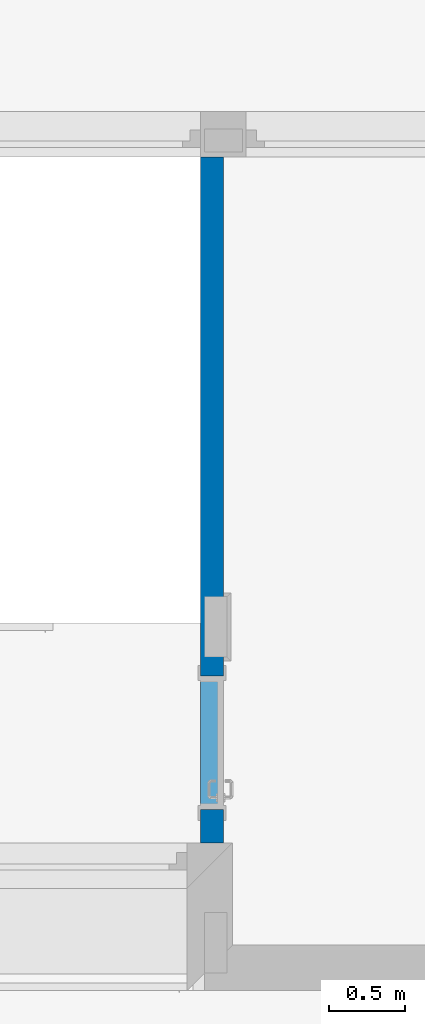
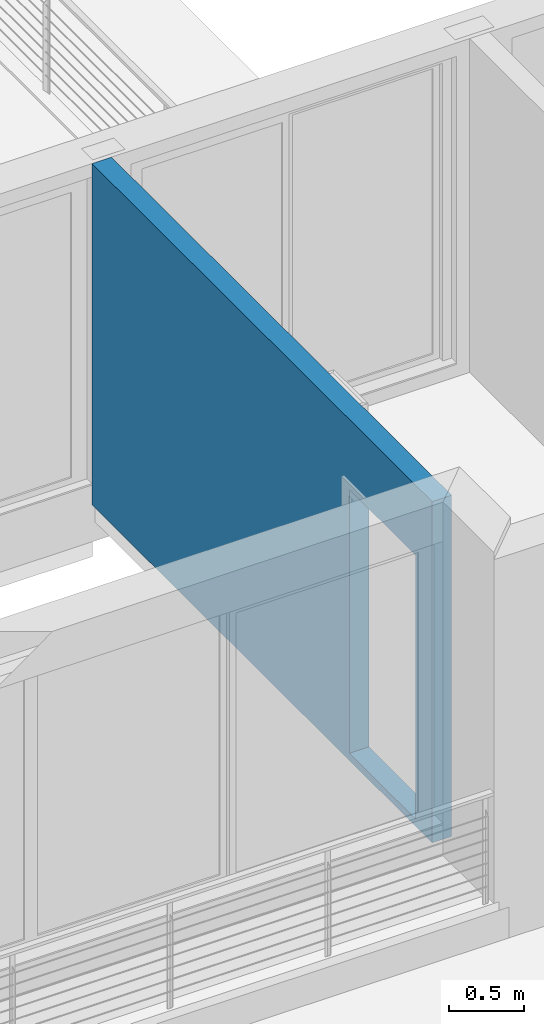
# One storey, part 9 of 24: 1 wall, 1 opening.
"""IFC2X3 building model written with IfcOpenShell, lengths in millimetres."""

import ifcopenshell
import ifcopenshell.guid

model = None  # the IFC model being written
_history = None  # IfcOwnerHistory: only IFC2X3 demands one
_inside = {}  # id of a spatial element -> (the spatial element, [elements in it])
_under = {}  # id of a project, library or spatial element -> (it, [spatial elements below it])
_declared = {}  # id of a project -> (the project, [libraries it declares])
_typed = {}  # id of a type object -> (the type object, [elements of that type])
_made_of = {}  # id of a material, layer set ... -> (it, [elements and type objects made of it])


def new_model(schema):
    """Start an empty IFC model of exactly this schema.

    Asked for "IFC4X3", IfcOpenShell would pick the latest addendum, in which some entities
    have other attributes; the version numbers below select the first issue.
    IFC2X3 requires an IfcOwnerHistory on every rooted entity: one is made here for all.
    """
    global model, _history
    if schema == "IFC4X3":
        model = ifcopenshell.file(schema_version=(4, 3, 0, 0))
    else:
        model = ifcopenshell.file(schema=schema)
    _inside.clear()
    _under.clear()
    _declared.clear()
    _typed.clear()
    _made_of.clear()
    _history = None
    if model.schema == "IFC2X3":
        org = make("IfcOrganization", Name="unknown")
        user = make(
            "IfcPersonAndOrganization",
            ThePerson=make("IfcPerson", FamilyName="unknown"),
            TheOrganization=org,
        )
        app = make(
            "IfcApplication",
            ApplicationDeveloper=org,
            Version="unknown",
            ApplicationFullName="unknown",
            ApplicationIdentifier="unknown",
        )
        _history = make(
            "IfcOwnerHistory",
            OwningUser=user,
            OwningApplication=app,
            ChangeAction="ADDED",
            CreationDate=0,
        )
    return model


def make(cls, **values):
    """One entity of the class cls with the attributes given. An attribute that is None is left unset."""
    return model.create_entity(
        cls, **{name: value for name, value in values.items() if value is not None}
    )


def entity(cls, *values):
    """Any entity or typed value of the class cls, its attributes in the order of the schema. None: left unset."""
    e = model.create_entity(cls)
    for i, value in enumerate(values):
        if value is not None:
            e[i] = value
    return e


def rooted(cls, **values):
    """An entity with a GlobalId (a new one), such as an element, a storey or a relation."""
    return make(cls, GlobalId=ifcopenshell.guid.new(), OwnerHistory=_history, **values)


def si_unit(unit_type, name, prefix=None):
    """IfcSIUnit, for example si_unit("LENGTHUNIT", "METRE", prefix="MILLI")."""
    return make("IfcSIUnit", UnitType=unit_type, Prefix=prefix, Name=name)


def converted_unit(unit_type, name, factor, base, dimensions=None, offset=None):
    """IfcConversionBasedUnit, such as the inch: factor (a typed value) times the base unit."""
    return make(
        "IfcConversionBasedUnit"
        if offset is None
        else "IfcConversionBasedUnitWithOffset",
        ConversionOffset=offset,
        Dimensions=None
        if dimensions is None
        else entity("IfcDimensionalExponents", *dimensions),
        UnitType=unit_type,
        Name=name,
        ConversionFactor=make(
            "IfcMeasureWithUnit", ValueComponent=factor, UnitComponent=base
        ),
    )


def money_unit(currency):
    """IfcMonetaryUnit."""
    return make("IfcMonetaryUnit", Currency=currency)


def assignment(units):
    """IfcUnitAssignment: the units of a project."""
    return None if units is None else make("IfcUnitAssignment", Units=units)


def point(xyz):
    """IfcCartesianPoint."""
    return None if xyz is None else make("IfcCartesianPoint", Coordinates=xyz)


def direction(xyz):
    """IfcDirection."""
    return None if xyz is None else make("IfcDirection", DirectionRatios=xyz)


def frame(location, z_axis=None, x_axis=None):
    """IfcAxis2Placement3D, a coordinate frame: its origin and axes. An axis left out is left unset."""
    return make(
        "IfcAxis2Placement3D",
        Location=point(location),
        Axis=direction(z_axis),
        RefDirection=direction(x_axis),
    )


def frame_2d(location, x_axis=None):
    """IfcAxis2Placement2D, a coordinate frame in the plane: its origin and x axis."""
    return make(
        "IfcAxis2Placement2D", Location=point(location), RefDirection=direction(x_axis)
    )


def origin_with_axes():
    """The frame at (0, 0, 0) with the z axis (0, 0, 1) and the x axis (1, 0, 0) written out."""
    return frame((0.0, 0.0, 0.0), z_axis=(0.0, 0.0, 1.0), x_axis=(1.0, 0.0, 0.0))


def origin_2d_with_axis():
    """The frame at (0, 0) in the plane with the x axis (1, 0) written out."""
    return frame_2d((0.0, 0.0), x_axis=(1.0, 0.0))


def place(relative_to, where):
    """IfcLocalPlacement: puts the frame where relative to a parent placement (None: the world)."""
    return make(
        "IfcLocalPlacement", PlacementRelTo=relative_to, RelativePlacement=where
    )


def context(
    kind, dimensions, precision=None, world=None, true_north=None, identifier=None
):
    """IfcGeometricRepresentationContext, for example the 3D "Model" context."""
    return make(
        "IfcGeometricRepresentationContext",
        ContextIdentifier=identifier,
        ContextType=kind,
        CoordinateSpaceDimension=dimensions,
        Precision=precision,
        WorldCoordinateSystem=world,
        TrueNorth=true_north,
    )


def subcontext(parent, identifier, kind, view, scale=None):
    """IfcGeometricRepresentationSubContext, for example "Body" below "Model"."""
    return make(
        "IfcGeometricRepresentationSubContext",
        ContextIdentifier=identifier,
        ContextType=kind,
        ParentContext=parent,
        TargetScale=scale,
        TargetView=view,
    )


def project(units=None, contexts=None):
    """IfcProject with its units and contexts."""
    return rooted(
        "IfcProject",
        Name="project",
        RepresentationContexts=contexts,
        UnitsInContext=assignment(units),
    )


def spatial(cls, under=None, at=None, **own):
    """A site, building, storey or space (cls), placed at a placement, below another one or the project."""
    s = rooted(cls, ObjectPlacement=at, **own)
    if under is not None:
        _under.setdefault(under.id(), (under, []))[1].append(s)
    return s


def polyline(points):
    """IfcPolyline through the points."""
    return make("IfcPolyline", Points=[point(p) for p in points])


def profile(cls, at=None, kind="AREA", **sizes):
    """A parametric profile (cls). Its sizes go by their IFC names, for example OverallWidth=200.0."""
    return make(cls, ProfileType=kind, Position=at, **sizes)


def rectangle(**sizes):
    """IfcRectangleProfileDef."""
    return profile("IfcRectangleProfileDef", **sizes)


def outline(outer, holes=None, kind="AREA"):
    """IfcArbitraryClosedProfileDef: a profile drawn as a closed curve; with holes, ...WithVoids."""
    if holes is None:
        return make("IfcArbitraryClosedProfileDef", ProfileType=kind, OuterCurve=outer)
    return make(
        "IfcArbitraryProfileDefWithVoids",
        ProfileType=kind,
        OuterCurve=outer,
        InnerCurves=holes,
    )


def extrude(swept, where, along, depth):
    """IfcExtrudedAreaSolid: the profile swept, set in the frame where, extruded along a direction by depth."""
    return make(
        "IfcExtrudedAreaSolid",
        SweptArea=swept,
        Position=where,
        ExtrudedDirection=direction(along),
        Depth=depth,
    )


def shape(context_of_items, identifier, shape_type, items):
    """IfcShapeRepresentation: the items that make up one representation, for example the "Body"."""
    return make(
        "IfcShapeRepresentation",
        ContextOfItems=context_of_items,
        RepresentationIdentifier=identifier,
        RepresentationType=shape_type,
        Items=items,
    )


def material(Name=None, Category=None):
    """IfcMaterial."""
    return make("IfcMaterial", Name=Name, Category=Category)


def layer(
    of_material, thickness, ventilated=None, Name=None, Category=None, Priority=None
):
    """IfcMaterialLayer: one layer of a wall or slab, of a material (None: an air gap)."""
    return make(
        "IfcMaterialLayer",
        Material=of_material,
        LayerThickness=thickness,
        IsVentilated=ventilated,
        Name=Name,
        Category=Category,
        Priority=Priority,
    )


def layer_set(layers, Name=None):
    """IfcMaterialLayerSet."""
    return make("IfcMaterialLayerSet", MaterialLayers=layers, LayerSetName=Name)


def layer_usage(for_layer_set, set_direction, sense, offset, extent=None):
    """IfcMaterialLayerSetUsage: how a layer set lies in its element."""
    return make(
        "IfcMaterialLayerSetUsage",
        ForLayerSet=for_layer_set,
        LayerSetDirection=set_direction,
        DirectionSense=sense,
        OffsetFromReferenceLine=offset,
        ReferenceExtent=extent,
    )


def made_of(thing, what):
    """Note that an element or type object is made of a material, layer set ...; save() writes the relation."""
    if what is not None:
        _made_of.setdefault(what.id(), (what, []))[1].append(thing)
    return thing


def type_object(cls, material=None, **own):
    """A type object (cls), such as IfcWallType, which elements share."""
    return made_of(rooted(cls, **own), material)


def element(
    cls,
    number,
    at=None,
    inside=None,
    cuts=None,
    type_object=None,
    material=None,
    context=None,
    identifier="Body",
    shape_type=None,
    held_by="IfcProductDefinitionShape",
    body=None,
    shapes=None,
    **own,
):
    """One element of the class cls, such as IfcWall. Its Tag is "e" and its number.

    at: its placement. inside: the storey or other place that contains it. cuts: it is an
    opening in that element (IfcRelVoidsElement). A single representation is given by context,
    identifier, shape_type and body (its items); several are given by shapes. held_by: the class
    of the entity that holds the representations. save() writes the other relations.
    """
    e = rooted(cls, Tag="e%d" % number, ObjectPlacement=at, **own)
    if body is not None:
        shapes = [shape(context, identifier, shape_type, body)]
    if shapes is not None:
        e.Representation = make(held_by, Representations=shapes)
    if inside is not None:
        _inside.setdefault(inside.id(), (inside, []))[1].append(e)
    if cuts is not None:
        rooted(
            "IfcRelVoidsElement", RelatingBuildingElement=cuts, RelatedOpeningElement=e
        )
    if type_object is not None:
        _typed.setdefault(type_object.id(), (type_object, []))[1].append(e)
    return made_of(e, material)


def aggregate(whole, parts):
    """IfcRelAggregates: a whole, such as a stair, and the parts it consists of."""
    return rooted("IfcRelAggregates", RelatingObject=whole, RelatedObjects=parts)


def save(model, path):
    """Write the relations noted so far, then the file.

    IfcRelAggregates (storeys below a building ...), IfcRelContainedInSpatialStructure (elements
    in a storey), IfcRelDefinesByType, IfcRelAssociatesMaterial and IfcRelDeclares: one each for
    every whole, place, type object, material and project.
    """
    for whole, parts in _under.values():
        aggregate(whole, parts)
    for where, things in _inside.values():
        rooted(
            "IfcRelContainedInSpatialStructure",
            RelatedElements=things,
            RelatingStructure=where,
        )
    for kind, things in _typed.values():
        rooted("IfcRelDefinesByType", RelatedObjects=things, RelatingType=kind)
    for what, things in _made_of.values():
        rooted("IfcRelAssociatesMaterial", RelatedObjects=things, RelatingMaterial=what)
    for by, libraries in _declared.values():
        rooted("IfcRelDeclares", RelatingContext=by, RelatedDefinitions=libraries)
    model.write(path)


model = new_model("IFC2X3")

# Units and contexts
model_context = context("Model", 3, precision=1e-05, world=origin_with_axes(), true_north=direction((0.0, 1.0)))
body_context = subcontext(model_context, "Body", "Model", "MODEL_VIEW")
ifc_project = project(units=[si_unit("LENGTHUNIT", "METRE", prefix="MILLI"), si_unit("AREAUNIT", "SQUARE_METRE"), si_unit("VOLUMEUNIT", "CUBIC_METRE"), converted_unit("PLANEANGLEUNIT", "DEGREE", entity("IfcPlaneAngleMeasure", 0.0174532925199), si_unit("PLANEANGLEUNIT", "RADIAN"), dimensions=[0, 0, 0, 0, 0, 0, 0]), si_unit("SOLIDANGLEUNIT", "STERADIAN"), money_unit("USD"), converted_unit("TIMEUNIT", "Year", entity("IfcTimeMeasure", 31556926.0), si_unit("TIMEUNIT", "SECOND"), dimensions=[0, 0, 0, 0, 0, 0, 0]), si_unit("MASSUNIT", "GRAM"), si_unit("THERMODYNAMICTEMPERATUREUNIT", "DEGREE_CELSIUS"), si_unit("LUMINOUSINTENSITYUNIT", "LUMEN")], contexts=[model_context])

# Site, building, storey
site_placement = place(None, origin_with_axes())
site = spatial("IfcSite", under=ifc_project, at=site_placement, Name="Grove Residential", CompositionType="ELEMENT")
building_placement = place(site_placement, origin_with_axes())
building = spatial("IfcBuilding", under=site, at=building_placement, Name="Building", CompositionType="ELEMENT")
storey_placement = place(building_placement, frame((0.0, 0.0, 3740.0), z_axis=(0.0, 0.0, 1.0), x_axis=(1.0, 0.0, 0.0)))
storey = spatial("IfcBuildingStorey", under=building, at=storey_placement, Name="First Floor", CompositionType="ELEMENT", Elevation=3740.0)

# Wall, opening
ifc_material_1 = material(Name="Gypsum Plasterboard")
ifc_layer_1 = layer(ifc_material_1, 12.5, ventilated="UNKNOWN")
ifc_layer_2 = layer(ifc_material_1, 12.5, ventilated="UNKNOWN")
ifc_material_2 = material(Name="Air Space - Frame")
ifc_layer_3 = layer(ifc_material_2, 50.0, ventilated="UNKNOWN")
ifc_material_3 = material(Name="Insulation - Mineral Soft")
ifc_layer_4 = layer(ifc_material_3, 50.0, ventilated="UNKNOWN")
ifc_layer_5 = layer(ifc_material_1, 12.5, ventilated="UNKNOWN")
ifc_layer_6 = layer(ifc_material_1, 12.5, ventilated="UNKNOWN")
ifc_layer_set = layer_set([ifc_layer_1, ifc_layer_2, ifc_layer_3, ifc_layer_4, ifc_layer_5, ifc_layer_6], Name="IWF-001")
ifc_layer_usage = layer_usage(ifc_layer_set, "AXIS2", "NEGATIVE", 75.0)
wall_type = type_object("IfcWallType", Name="IWF-001 150", PredefinedType="NOTDEFINED")
wall_placement = place(storey_placement, frame((7150.0, 7035.0, -60.0), z_axis=(0.0, 0.0, 1.0), x_axis=(0.0, -1.0, 0.0)))
wall = element("IfcWallStandardCase", 1, at=wall_placement, inside=storey, type_object=wall_type, material=ifc_layer_usage, Name="SW - 001", context=body_context, shape_type="SweptSolid", body=[
    extrude(outline(polyline([(185.0, -75.0), (4710.00003278, -75.0), (4710.00003278, 75.0), (185.0, 75.0), (185.0, -75.0)])), origin_with_axes(), (0.0, 0.0, 1.0), 2770.0),
])
opening_placement = place(wall_placement, frame((4050.00003278, 0.0, 60.0), z_axis=(0.0, 0.0, 1.0), x_axis=(1.0, 0.0, 0.0)))
element("IfcOpeningElement", 2, at=opening_placement, cuts=wall, Name="D.01", context=body_context, shape_type="SweptSolid", body=[
    extrude(rectangle(XDim=880.0, YDim=2140.0, at=origin_2d_with_axis()), frame((0.0, 150.0, 1070.0), z_axis=(0.0, 1.0, 0.0), x_axis=(-1.0, 0.0, 0.0)), (0.0, 0.0, -1.0), 450.0),
    extrude(rectangle(XDim=1024.0, YDim=2212.0, at=origin_2d_with_axis()), frame((0.0, 75.0, 1106.0), z_axis=(0.0, 1.0, 0.0), x_axis=(-1.0, 0.0, 0.0)), (0.0, 0.0, 1.0), 150.0),
    extrude(rectangle(XDim=1024.0, YDim=2212.0, at=origin_2d_with_axis()), frame((0.0, -75.0, 1106.0), z_axis=(0.0, -1.0, 0.0), x_axis=(-1.0, 0.0, 0.0)), (0.0, 0.0, 1.0), 150.0),
])

save(model, "model.ifc")
